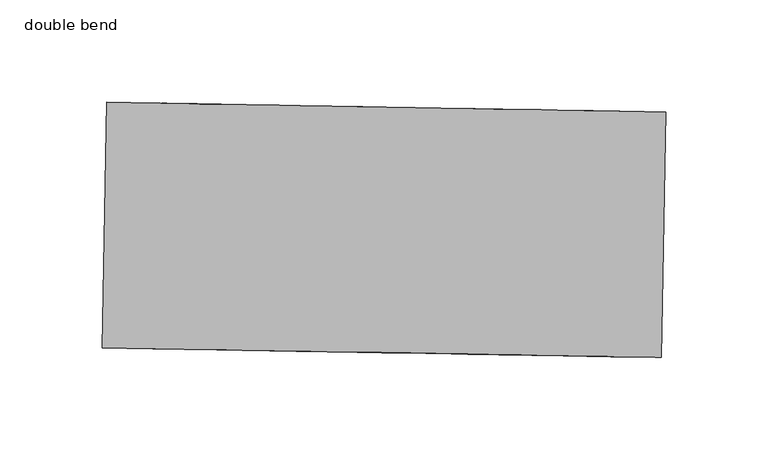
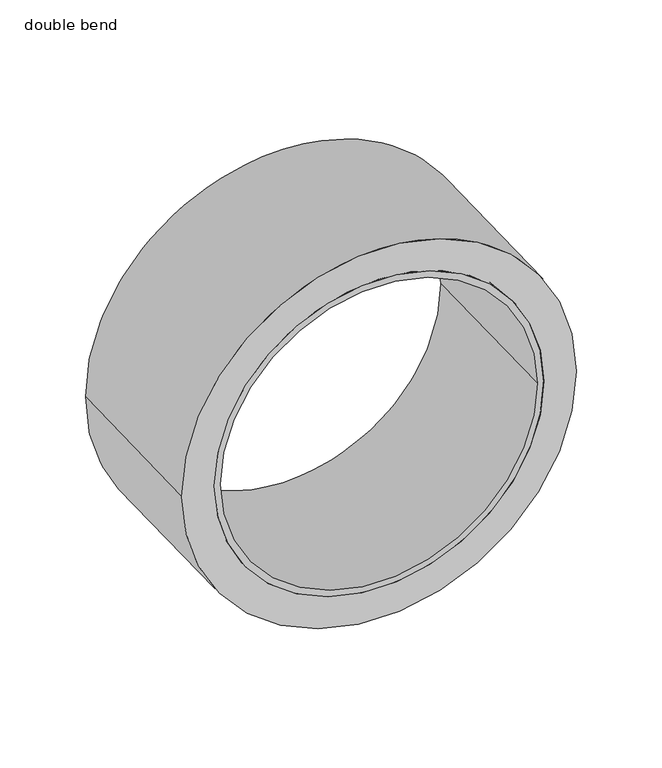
"""IFC4 building model written with IfcOpenShell, lengths in millimetres: pipe fitting geometry, PIF_ST_UN_GM-X compound pipe multi-bend_ACO : double bend."""

from ifc_helpers import new_model, si_unit, point, frame, frame_2d, origin, place, context, project, spatial, polyline, circle_curve, trimmed, segment, composite_curve, outline, extrude, source, transform, mapped, element, save
from ifc_brep_helpers import plane_surface, cylinder_surface, revolved_surface, advanced_brep


def double_bend_6fd856f4(model_context):
    return source(origin(), model_context, "Body", "SolidModel", [
        extrude(outline(composite_curve([segment(trimmed(circle_curve(frame_2d((0.0, -136.5)), 136.5), [point((0.0, -273.0))], [point((0.0, 0.0))], False, "CARTESIAN"), True, "CONTINUOUS"), segment(trimmed(circle_curve(frame_2d((0.0, -136.5)), 136.5), [point((0.0, 0.0))], [point((0.0, -273.0))], False, "CARTESIAN"), True, "CONTINUOUS")], self_intersect=False), holes=[composite_curve([segment(trimmed(circle_curve(frame_2d((0.0, -136.5)), 114.0), [point((0.0, -250.5000001))], [point((0.0, -22.5000001))], True, "CARTESIAN"), True, "CONTINUOUS"), segment(trimmed(circle_curve(frame_2d((0.0, -136.5)), 114.0), [point((0.0, -22.5000001))], [point((0.0, -250.5000001))], True, "CARTESIAN"), True, "CONTINUOUS")], self_intersect=False)]), frame((-128.6148364, 452.9319385, 0.0), z_axis=(0.017452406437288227, 0.9998476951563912, 0.0), x_axis=(0.0, 0.0, -1.0)), (0.0, 0.0, 1.0), 120.0),
        advanced_brep(
        [(123.9413, 568.5418341, 0.0), (-104.0239745, 572.5209828, 0.0), (-99.5246598, 572.442447, 0.0), (119.4419854, 568.62037, 0.0), (121.8470113, 448.5601107, 0.0), (-106.1182632, 452.5392594, 0.0), (117.3476966, 448.6386465, 0.0), (-101.6189486, 452.4607235, 0.0), (123.1733941, 524.5485355, 0.0), (-104.7918804, 528.5276842, 0.0), (-105.8460057, 468.1368834, 0.0), (122.1192688, 464.1577348, 0.0), (132.8719168, 524.3792472, 0.0), (-114.490403, 528.6969725, 0.0), (131.8177914, 463.9884464, 0.0), (-115.5445283, 468.3061718, 0.0)],
        [
            (0, 1, circle_curve(frame((9.9586628, 570.5314085, 0.0), z_axis=(0.017452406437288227, 0.9998476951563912, 0.0), x_axis=(-0.9998476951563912, 0.017452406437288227, 0.0)), 114.0)),
            (1, 0, circle_curve(frame((9.9586628, 570.5314085, 0.0), z_axis=(0.017452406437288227, 0.9998476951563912, 0.0), x_axis=(-0.9998476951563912, 0.017452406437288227, 0.0)), 114.0)),
            (2, 3, circle_curve(frame((9.9586628, 570.5314085, 0.0), z_axis=(-0.017452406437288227, -0.9998476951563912, 0.0), x_axis=(-0.9998476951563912, 0.017452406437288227, 0.0)), 109.5)),
            (3, 2, circle_curve(frame((9.9586628, 570.5314085, 0.0), z_axis=(-0.017452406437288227, -0.9998476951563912, 0.0), x_axis=(-0.9998476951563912, 0.017452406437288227, 0.0)), 109.5)),
            (4, 5, circle_curve(frame((7.864374, 450.549685, 0.0), z_axis=(-0.017452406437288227, -0.9998476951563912, 0.0), x_axis=(-0.9998476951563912, 0.017452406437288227, 0.0)), 114.0)),
            (5, 4, circle_curve(frame((7.864374, 450.549685, 0.0), z_axis=(-0.017452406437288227, -0.9998476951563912, 0.0), x_axis=(-0.9998476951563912, 0.017452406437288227, 0.0)), 114.0)),
            (6, 7, circle_curve(frame((7.864374, 450.549685, 0.0), z_axis=(0.017452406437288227, 0.9998476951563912, 0.0), x_axis=(-0.9998476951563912, 0.017452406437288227, 0.0)), 109.5)),
            (7, 6, circle_curve(frame((7.864374, 450.549685, 0.0), z_axis=(0.017452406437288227, 0.9998476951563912, 0.0), x_axis=(-0.9998476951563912, 0.017452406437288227, 0.0)), 109.5)),
            (0, 8),
            (8, 9, circle_curve(frame((9.1907569, 526.5381099, 0.0), z_axis=(0.017452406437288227, 0.9998476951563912, 0.0), x_axis=(-0.9998476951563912, 0.017452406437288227, 0.0)), 114.0)),
            (9, 1),
            (5, 10),
            (10, 11, circle_curve(frame((8.1366315, 466.1473091, 0.0), z_axis=(-0.017452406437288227, -0.9998476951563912, 0.0), x_axis=(-0.9998476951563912, 0.017452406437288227, 0.0)), 114.0)),
            (11, 4),
            (9, 8, circle_curve(frame((9.1907569, 526.5381099, 0.0), z_axis=(0.017452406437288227, 0.9998476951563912, 0.0), x_axis=(-0.9998476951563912, 0.017452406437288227, 0.0)), 114.0)),
            (11, 10, circle_curve(frame((8.1366315, 466.1473091, 0.0), z_axis=(-0.017452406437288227, -0.9998476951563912, 0.0), x_axis=(-0.9998476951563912, 0.017452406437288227, 0.0)), 114.0)),
            (2, 7),
            (6, 3),
            (12, 13, circle_curve(frame((9.1907569, 526.5381099, 0.0), z_axis=(0.017452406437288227, 0.9998476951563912, 0.0), x_axis=(-0.9998476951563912, 0.017452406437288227, 0.0)), 123.7)),
            (13, 12, circle_curve(frame((9.1907569, 526.5381099, 0.0), z_axis=(0.017452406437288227, 0.9998476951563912, 0.0), x_axis=(-0.9998476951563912, 0.017452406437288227, 0.0)), 123.7)),
            (14, 15, circle_curve(frame((8.1366315, 466.1473091, 0.0), z_axis=(-0.017452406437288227, -0.9998476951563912, 0.0), x_axis=(-0.9998476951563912, 0.017452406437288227, 0.0)), 123.7)),
            (15, 14, circle_curve(frame((8.1366315, 466.1473091, 0.0), z_axis=(-0.017452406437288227, -0.9998476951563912, 0.0), x_axis=(-0.9998476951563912, 0.017452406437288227, 0.0)), 123.7)),
            (12, 14),
            (15, 13),
        ],
        [
            plane_surface(frame((-104.0239745, 572.5209828, 0.0), z_axis=(0.017452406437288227, 0.9998476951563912, 0.0), x_axis=(0.0, 0.0, 1.0))),
            plane_surface(frame((-106.1182632, 452.5392594, 0.0), z_axis=(-0.017452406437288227, -0.9998476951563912, 0.0), x_axis=(0.0, 0.0, -1.0))),
            cylinder_surface(frame((7.864374, 450.549685, 0.0), z_axis=(0.017452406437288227, 0.9998476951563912, 0.0), x_axis=(-0.9998476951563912, 0.017452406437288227, 0.0)), 114.0),
            revolved_surface(polyline([(-99.52465984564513, 572.4424470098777, 0.0), (-101.61894861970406, 452.4607235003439, 0.0)]), (7.864374, 450.549685, 0.0), (0.017452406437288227, 0.9998476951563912, 0.0)),
            plane_surface(frame((-114.490403, 528.6969725, 0.0), z_axis=(0.017452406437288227, 0.9998476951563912, 0.0), x_axis=(0.0, 0.0, 1.0))),
            plane_surface(frame((-115.5445283, 468.3061718, 0.0), z_axis=(-0.017452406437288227, -0.9998476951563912, 0.0), x_axis=(0.0, 0.0, -1.0))),
            cylinder_surface(frame((8.1366315, 466.1473091, 0.0), z_axis=(0.017452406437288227, 0.9998476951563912, 0.0), x_axis=(-0.9998476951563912, 0.017452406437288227, 0.0)), 123.7),
        ],
        [
            (0, [[1, 2], [3, 4]]),
            (1, [[5, 6], [7, 8]]),
            (2, [[-1, 9, 10, 11]]),
            (2, [[-6, 12, 13, 14]]),
            (2, [[-2, -11, 15, -9]]),
            (2, [[-5, -14, 16, -12]]),
            (3, [[17, -7, 18, -3]]),
            (3, [[-17, -4, -18, -8]]),
            (4, [[19, 20], [-10, -15]]),
            (5, [[21, 22], [-13, -16]]),
            (6, [[-19, 23, -22, 24]]),
            (6, [[-20, -24, -21, -23]]),
        ],
    ),
    ])


if __name__ == "__main__":
    model = new_model("IFC4")
    model_context = context("Model", 3, world=origin())
    ifc_project = project(units=[si_unit("LENGTHUNIT", "METRE", prefix="MILLI")], contexts=[model_context])
    site = spatial("IfcSite", under=ifc_project)
    building = spatial("IfcBuilding", under=site)
    placement = place(None, origin())
    double_bend_shape = double_bend_6fd856f4(model_context)
    element("IfcPipeFitting", 1, ObjectType="PIF_ST_UN_GM-X compound pipe multi-bend_ACO : double bend", at=placement, inside=building, context=model_context, shape_type="MappedRepresentation", body=[
        mapped(double_bend_shape, transform((0.0, 0.0, 0.0), x_axis=(1.0, 0.0, 0.0), y_axis=(0.0, 1.0, 0.0), z_axis=(0.0, 0.0, 1.0))),
    ])
    save(model, "model.ifc")
